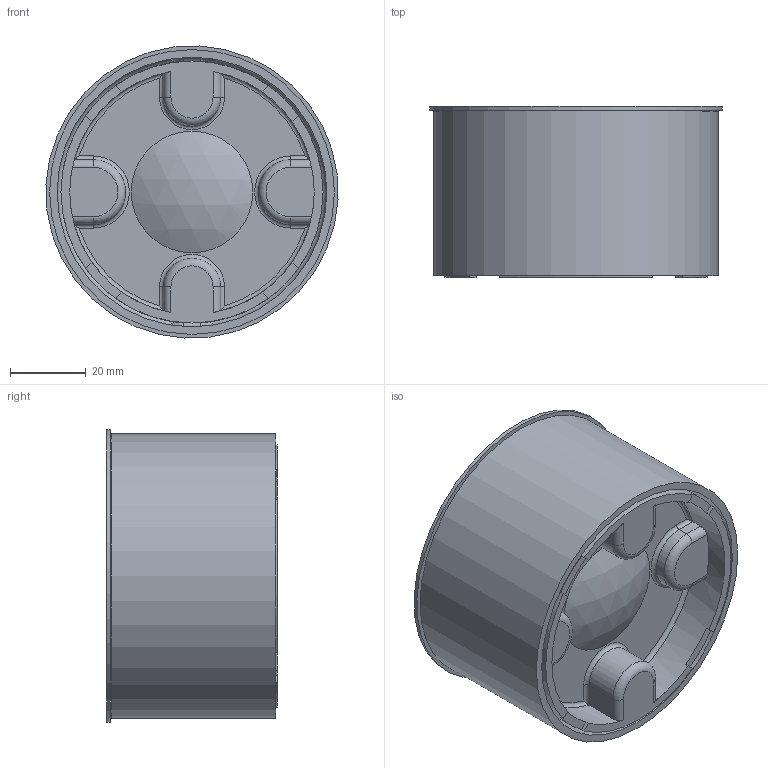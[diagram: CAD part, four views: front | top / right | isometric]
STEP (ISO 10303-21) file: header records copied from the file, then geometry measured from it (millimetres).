
FILE_DESCRIPTION(/* description */ (''),/* implementation_level */ '2;1');
FILE_NAME(/* name */ 'RECESSED FIXING KIT.stp',/* time_stamp */ '2023-12-01T14:25:00+01:00',/* author */ ('n.bisotti'),/* organization */ (''),/* preprocessor_version */ 'ST-DEVELOPER v19.2',/* originating_system */ 'Autodesk Inventor 2023',/* authorisation */ '');
FILE_SCHEMA (('AUTOMOTIVE_DESIGN { 1 0 10303 214 3 1 1 }'));
Length unit declared in the file: millimetre
Products named in the file (1): Parte1
Bounding box: 76.9 x 45 x 76.9 mm (x, y, z)
Volume: 69313.9 mm3; surface area: 58501.9 mm2
Topology: 4 solids, 4 shells, 193 faces, 458 edges, 281 vertices
Faces by surface type: cylinder 73, plane 71, torus 35, sphere 6, cone 4, bspline 4
Full cylindrical faces by diameter (mm): 2 x1, 2.5 x2, 4.25 x2, 11 x2, 17 x1, 32 x1, 60 x1, 61 x1, 69 x1, 71 x1, 75 x1, 77 x1
Entity records: 6113 total; most frequent: CARTESIAN_POINT 1279, DIRECTION 1032, ORIENTED_EDGE 912, EDGE_CURVE 456, AXIS2_PLACEMENT_3D 410, VERTEX_POINT 281, CIRCLE 220, LINE 212
